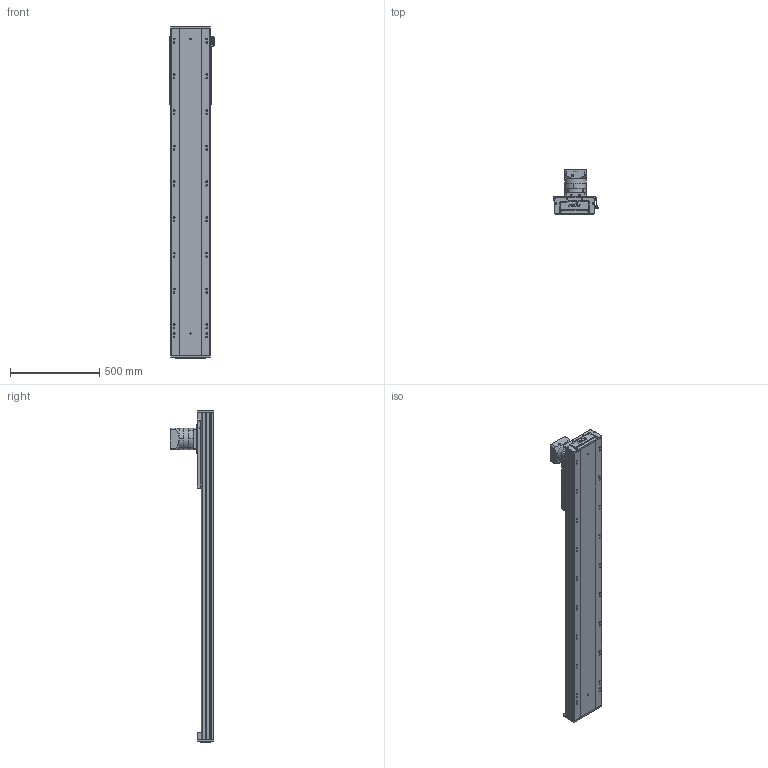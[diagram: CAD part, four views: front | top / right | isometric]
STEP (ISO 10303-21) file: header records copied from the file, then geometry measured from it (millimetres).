
FILE_DESCRIPTION (( 'STEP AP203' ), '1' );
FILE_NAME ('RY220-C-300-UK.SLDASM_1350.step', '2022-08-01T05:59:16', ( '' ), ( '' ), 'SwSTEP 2.0', 'SolidWorks 2016', '' );
FILE_SCHEMA (( 'CONFIG_CONTROL_DESIGN' ));
Length unit declared in the file: millimetre
Products named in the file (10): 滅袉蝶輸ㄗG412隅秶ㄘ; RY220菁釱MK-300_1350; RY140直线电机感应器674光电安装座; RY220喘沭綴裔啣; RY220-齿条模组电机安装板; 覜茼ん674; RY220-C-300-UK.SLDASM_1350; RY220喘沭賑輸; PF115L1-S2-22-58-110-145-M8; RY220喘沭俋离覜茼え
Assembly tree (12 placements, depth 2):
  RY220-C-300-UK.SLDASM_1350
    RY220菁釱MK-300_1350
    RY220喘沭賑輸
    RY220-齿条模组电机安装板
    PF115L1-S2-22-58-110-145-M8
    RY220喘沭綴裔啣  x2
    滅袉蝶輸ㄗG412隅秶ㄘ  x2
    RY140直线电机感应器674光电安装座
    覜茼ん674  x2
    RY220喘沭俋离覜茼え
Bounding box: 247 x 244.5 x 1859 mm (x, y, z)
Volume: 14275329.6 mm3; surface area: 2842821.5 mm2
Topology: 18 solids, 26 shells, 2058 faces, 5525 edges, 3503 vertices
Faces by surface type: cylinder 955, plane 751, cone 190, bspline 162
Entity records: 65221 total; most frequent: CARTESIAN_POINT 17929, DIRECTION 9675, ORIENTED_EDGE 9570, EDGE_CURVE 4785, AXIS2_PLACEMENT_3D 3677, VERTEX_POINT 3129, EDGE_LOOP 2350, VECTOR 2321
